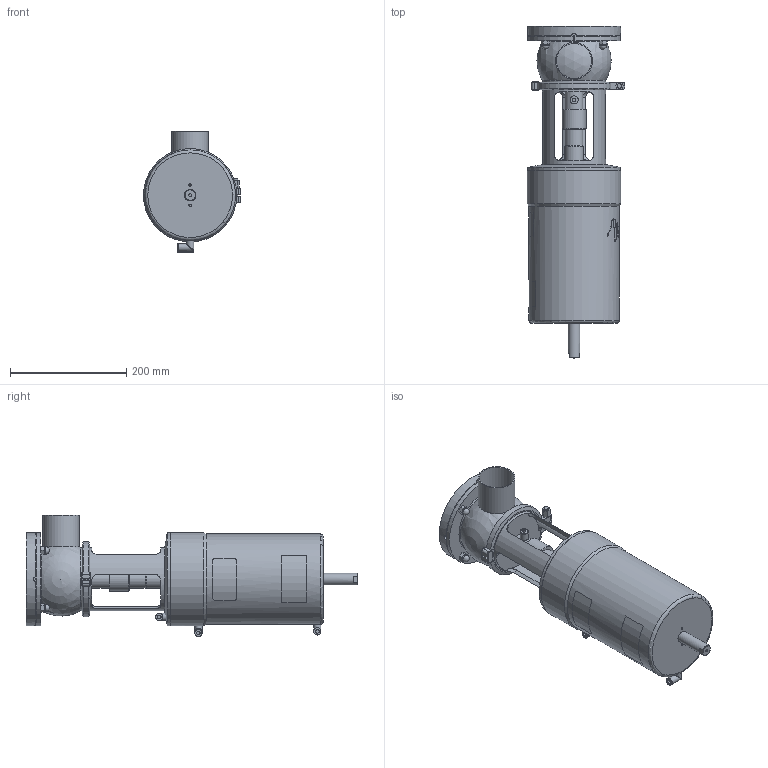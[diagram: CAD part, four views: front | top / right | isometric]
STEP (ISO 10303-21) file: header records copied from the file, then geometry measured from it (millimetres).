
FILE_DESCRIPTION (( 'STEP AP214' ), '1' );
FILE_NAME ('INNOVA T L W OD 2½ WITH FLANGE_10.252.16.0005.STEP', '2024-08-21T11:30:10', ( '' ), ( '' ), 'SwSTEP 2.0', 'SolidWorks 2023', '' );
FILE_SCHEMA (( 'AUTOMOTIVE_DESIGN' ));
Length unit declared in the file: millimetre
Products named in the file (6): 10.250.15.0002_Type T T2; 10.252.15.0001_OD 2½"; 10.248.15.0003_DIN 065 _ OD 2½"; 10.240.15.0001_DN 065; 10.240.15.0006_OD 2½"; INNOVA T L W OD 2½ WITH FLANGE_10.252.16.0005
Assembly tree (5 placements, depth 2):
  INNOVA T L W OD 2½ WITH FLANGE_10.252.16.0005
    10.240.15.0006_OD 2½"
    10.248.15.0003_DIN 065 _ OD 2½"
    10.252.15.0001_OD 2½"
    10.250.15.0002_Type T T2
    10.240.15.0001_DN 065
Bounding box: 167.5 x 572.13 x 209 mm (x, y, z)
Volume: 7027007.4 mm3; surface area: 468338.2 mm2
Topology: 5 solids, 5 shells, 415 faces, 1083 edges, 707 vertices
Faces by surface type: plane 196, cylinder 109, bspline 82, cone 21, sphere 6, torus 1
Full cylindrical faces by diameter (mm): 4.2 x2, 5 x1, 6 x1, 6.15 x3, 8 x2, 10.5 x3, 12 x1, 12.5 x13, 14 x2, 20 x1, 30.5 x2, 32 x1, 41 x1, 60.2 x1, 63.5 x1, 109 x3, 110 x1, 121 x3, 132 x1, 156 x1, 160 x2, 161 x1
Entity records: 23875 total; most frequent: CARTESIAN_POINT 12829, ORIENTED_EDGE 1958, DIRECTION 1575, EDGE_CURVE 979, VERTEX_POINT 679, AXIS2_PLACEMENT_3D 591, EDGE_LOOP 530, FACE_OUTER_BOUND 466
